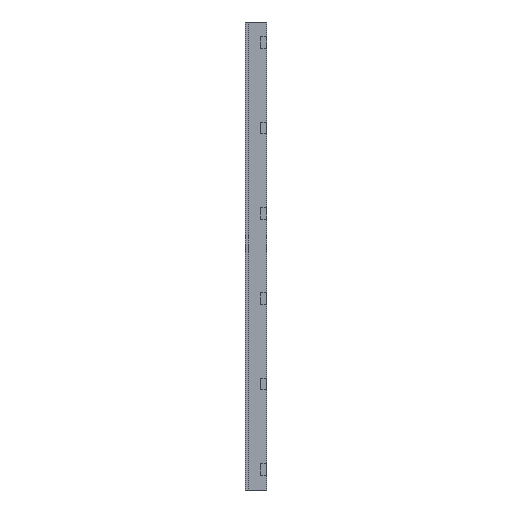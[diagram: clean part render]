
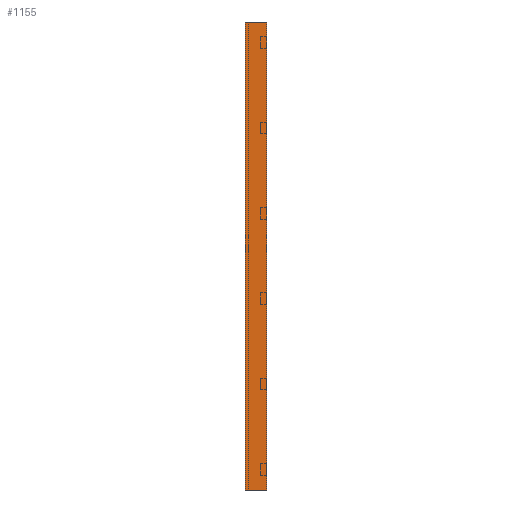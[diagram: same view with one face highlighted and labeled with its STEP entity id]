
A CAD part, left-side view. The second image highlights one B-rep face of the part: STEP entity #1155.
In plain terms, the highlighted planar face has unit normal (-1, 0, 0).
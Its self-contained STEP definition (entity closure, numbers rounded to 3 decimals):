
#1 = DIRECTION ( 'NONE',  ( 0., -1., 0. ) ) ;
#19 = CARTESIAN_POINT ( 'NONE',  ( 0., 0., -1600. ) ) ;
#88 = DIRECTION ( 'NONE',  ( 0., 0., 1. ) ) ;
#101 = VECTOR ( 'NONE', #455, 1000. ) ;
#175 = EDGE_CURVE ( 'NONE', #1591, #778, #1305, .T. ) ;
#198 = EDGE_CURVE ( 'NONE', #842, #778, #902, .T. ) ;
#258 = VERTEX_POINT ( 'NONE', #1337 ) ;
#265 = LINE ( 'NONE', #1348, #1242 ) ;
#335 = CARTESIAN_POINT ( 'NONE',  ( 0., 75., -1600. ) ) ;
#362 = PLANE ( 'NONE',  #496 ) ;
#455 = DIRECTION ( 'NONE',  ( 0., 0., 1. ) ) ;
#467 = CARTESIAN_POINT ( 'NONE',  ( 0., 0., 0. ) ) ;
#496 = AXIS2_PLACEMENT_3D ( 'NONE', #615, #1019, #1141 ) ;
#583 = LINE ( 'NONE', #335, #101 ) ;
#615 = CARTESIAN_POINT ( 'NONE',  ( 0., 0., -1600. ) ) ;
#778 = VERTEX_POINT ( 'NONE', #1014 ) ;
#836 = CARTESIAN_POINT ( 'NONE',  ( 0., 75., 0. ) ) ;
#842 = VERTEX_POINT ( 'NONE', #19 ) ;
#902 = LINE ( 'NONE', #1523, #1655 ) ;
#1014 = CARTESIAN_POINT ( 'NONE',  ( 0., 0., 0. ) ) ;
#1019 = DIRECTION ( 'NONE',  ( -1., 0., 0. ) ) ;
#1033 = ORIENTED_EDGE ( 'NONE', *, *, #1641, .F. ) ;
#1141 = DIRECTION ( 'NONE',  ( 0., 0., 1. ) ) ;
#1152 = VECTOR ( 'NONE', #1, 1000. ) ;
#1155 = ADVANCED_FACE ( 'NONE', ( #1390 ), #362, .T. ) ;
#1185 = ORIENTED_EDGE ( 'NONE', *, *, #198, .T. ) ;
#1189 = ORIENTED_EDGE ( 'NONE', *, *, #1434, .T. ) ;
#1220 = DIRECTION ( 'NONE',  ( 0., -1., 0. ) ) ;
#1242 = VECTOR ( 'NONE', #1220, 1000. ) ;
#1305 = LINE ( 'NONE', #467, #1152 ) ;
#1337 = CARTESIAN_POINT ( 'NONE',  ( 0., 75., -1600. ) ) ;
#1348 = CARTESIAN_POINT ( 'NONE',  ( 0., 0., -1600. ) ) ;
#1390 = FACE_OUTER_BOUND ( 'NONE', #1409, .T. ) ;
#1409 = EDGE_LOOP ( 'NONE', ( #1616, #1033, #1189, #1185 ) ) ;
#1434 = EDGE_CURVE ( 'NONE', #258, #842, #265, .T. ) ;
#1523 = CARTESIAN_POINT ( 'NONE',  ( 0., 0., -1600. ) ) ;
#1591 = VERTEX_POINT ( 'NONE', #836 ) ;
#1616 = ORIENTED_EDGE ( 'NONE', *, *, #175, .F. ) ;
#1641 = EDGE_CURVE ( 'NONE', #258, #1591, #583, .T. ) ;
#1655 = VECTOR ( 'NONE', #88, 1000. ) ;
